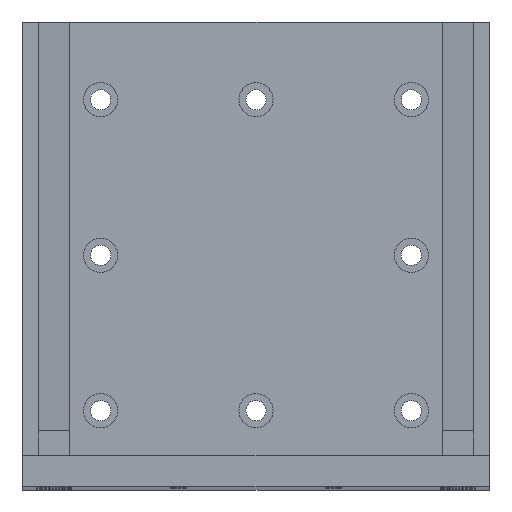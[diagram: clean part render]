
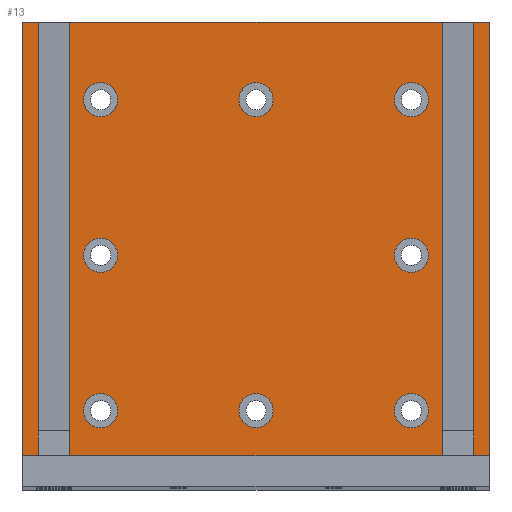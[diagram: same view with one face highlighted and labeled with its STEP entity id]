
A CAD part, top view. The second image highlights one B-rep face of the part: STEP entity #13.
In plain terms, the highlighted planar face has unit normal (0, 0, 1).
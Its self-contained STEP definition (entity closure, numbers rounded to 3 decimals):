
#11 = VERTEX_POINT ( 'NONE', #89 ) ;
#13 = ADVANCED_FACE ( 'NONE', ( #3093, #1830, #276, #179, #2582, #2991, #231, #2625, #3475 ), #2829, .F. ) ;
#89 = CARTESIAN_POINT ( 'NONE',  ( -75., -75.25, 10. ) ) ;
#120 = CARTESIAN_POINT ( 'NONE',  ( 5.5, 50.25, 10. ) ) ;
#124 = EDGE_CURVE ( 'NONE', #11, #1620, #3383, .T. ) ;
#148 = DIRECTION ( 'NONE',  ( 0., 0., 1. ) ) ;
#149 = EDGE_CURVE ( 'NONE', #2260, #2260, #2208, .T. ) ;
#155 = DIRECTION ( 'NONE',  ( 1., 0., 0. ) ) ;
#157 = CARTESIAN_POINT ( 'NONE',  ( 50., -49.75, 10. ) ) ;
#159 = CIRCLE ( 'NONE', #3938, 5.5 ) ;
#179 = FACE_BOUND ( 'NONE', #2463, .T. ) ;
#191 = ORIENTED_EDGE ( 'NONE', *, *, #2084, .F. ) ;
#231 = FACE_BOUND ( 'NONE', #754, .T. ) ;
#276 = FACE_BOUND ( 'NONE', #1924, .T. ) ;
#295 = VECTOR ( 'NONE', #1230, 1000. ) ;
#398 = CARTESIAN_POINT ( 'NONE',  ( 55.5, -49.75, 10. ) ) ;
#436 = CIRCLE ( 'NONE', #2646, 5.5 ) ;
#448 = DIRECTION ( 'NONE',  ( 1., 0., 0. ) ) ;
#511 = EDGE_LOOP ( 'NONE', ( #3136 ) ) ;
#522 = ORIENTED_EDGE ( 'NONE', *, *, #124, .T. ) ;
#536 = CARTESIAN_POINT ( 'NONE',  ( 75., -75.25, 10. ) ) ;
#574 = ORIENTED_EDGE ( 'NONE', *, *, #3185, .T. ) ;
#576 = DIRECTION ( 'NONE',  ( 1., 0., 0. ) ) ;
#617 = CARTESIAN_POINT ( 'NONE',  ( 50., 50.25, 10. ) ) ;
#635 = EDGE_CURVE ( 'NONE', #2950, #2950, #3952, .T. ) ;
#654 = VECTOR ( 'NONE', #1483, 1000. ) ;
#747 = DIRECTION ( 'NONE',  ( 1., 0., 0. ) ) ;
#754 = EDGE_LOOP ( 'NONE', ( #3772 ) ) ;
#793 = CARTESIAN_POINT ( 'NONE',  ( 0., 50.25, 10. ) ) ;
#831 = AXIS2_PLACEMENT_3D ( 'NONE', #2414, #3305, #576 ) ;
#864 = DIRECTION ( 'NONE',  ( 0., 0., 1. ) ) ;
#868 = CARTESIAN_POINT ( 'NONE',  ( -75., -75.25, 10. ) ) ;
#913 = CIRCLE ( 'NONE', #3582, 5.5 ) ;
#931 = ORIENTED_EDGE ( 'NONE', *, *, #1520, .F. ) ;
#946 = AXIS2_PLACEMENT_3D ( 'NONE', #1826, #2461, #1543 ) ;
#956 = DIRECTION ( 'NONE',  ( 1., 0., 0. ) ) ;
#1094 = CARTESIAN_POINT ( 'NONE',  ( 0., 0., 10. ) ) ;
#1099 = CARTESIAN_POINT ( 'NONE',  ( -44.5, 0.25, 10. ) ) ;
#1103 = DIRECTION ( 'NONE',  ( 0., 0., -1. ) ) ;
#1127 = DIRECTION ( 'NONE',  ( 0., 0., 1. ) ) ;
#1134 = DIRECTION ( 'NONE',  ( 1., 0., 0. ) ) ;
#1230 = DIRECTION ( 'NONE',  ( -1., 0., 0. ) ) ;
#1311 = CARTESIAN_POINT ( 'NONE',  ( 75., 75.25, 10. ) ) ;
#1337 = EDGE_CURVE ( 'NONE', #2500, #11, #1898, .T. ) ;
#1483 = DIRECTION ( 'NONE',  ( 0., -1., 0. ) ) ;
#1520 = EDGE_CURVE ( 'NONE', #2947, #2947, #2835, .T. ) ;
#1543 = DIRECTION ( 'NONE',  ( 1., 0., 0. ) ) ;
#1556 = VERTEX_POINT ( 'NONE', #2905 ) ;
#1620 = VERTEX_POINT ( 'NONE', #536 ) ;
#1657 = ORIENTED_EDGE ( 'NONE', *, *, #149, .F. ) ;
#1679 = CARTESIAN_POINT ( 'NONE',  ( -44.5, 50.25, 10. ) ) ;
#1682 = CARTESIAN_POINT ( 'NONE',  ( 50., 0.25, 10. ) ) ;
#1691 = VECTOR ( 'NONE', #2027, 1000. ) ;
#1730 = DIRECTION ( 'NONE',  ( -1., 0., 0. ) ) ;
#1736 = EDGE_LOOP ( 'NONE', ( #191 ) ) ;
#1826 = CARTESIAN_POINT ( 'NONE',  ( -50., -49.75, 10. ) ) ;
#1830 = FACE_BOUND ( 'NONE', #511, .T. ) ;
#1885 = EDGE_CURVE ( 'NONE', #2815, #2815, #2699, .T. ) ;
#1898 = LINE ( 'NONE', #868, #654 ) ;
#1905 = EDGE_LOOP ( 'NONE', ( #1951 ) ) ;
#1920 = EDGE_CURVE ( 'NONE', #3277, #3277, #159, .T. ) ;
#1924 = EDGE_LOOP ( 'NONE', ( #1657 ) ) ;
#1934 = ORIENTED_EDGE ( 'NONE', *, *, #3083, .T. ) ;
#1951 = ORIENTED_EDGE ( 'NONE', *, *, #3915, .F. ) ;
#1952 = AXIS2_PLACEMENT_3D ( 'NONE', #1094, #1103, #1730 ) ;
#2027 = DIRECTION ( 'NONE',  ( 1., 0., 0. ) ) ;
#2076 = VECTOR ( 'NONE', #2517, 1000. ) ;
#2078 = ORIENTED_EDGE ( 'NONE', *, *, #1337, .T. ) ;
#2084 = EDGE_CURVE ( 'NONE', #3335, #3335, #913, .T. ) ;
#2208 = CIRCLE ( 'NONE', #2814, 5.5 ) ;
#2217 = EDGE_CURVE ( 'NONE', #1556, #1556, #2479, .T. ) ;
#2260 = VERTEX_POINT ( 'NONE', #398 ) ;
#2414 = CARTESIAN_POINT ( 'NONE',  ( -50., 0.25, 10. ) ) ;
#2426 = CARTESIAN_POINT ( 'NONE',  ( -75., 75.25, 10. ) ) ;
#2461 = DIRECTION ( 'NONE',  ( 0., 0., 1. ) ) ;
#2463 = EDGE_LOOP ( 'NONE', ( #2693 ) ) ;
#2479 = CIRCLE ( 'NONE', #946, 5.5 ) ;
#2500 = VERTEX_POINT ( 'NONE', #3794 ) ;
#2517 = DIRECTION ( 'NONE',  ( 0., 1., 0. ) ) ;
#2582 = FACE_BOUND ( 'NONE', #3097, .T. ) ;
#2625 = FACE_BOUND ( 'NONE', #3681, .T. ) ;
#2628 = DIRECTION ( 'NONE',  ( 0., 0., 1. ) ) ;
#2646 = AXIS2_PLACEMENT_3D ( 'NONE', #617, #3381, #956 ) ;
#2693 = ORIENTED_EDGE ( 'NONE', *, *, #2217, .F. ) ;
#2699 = CIRCLE ( 'NONE', #3496, 5.5 ) ;
#2814 = AXIS2_PLACEMENT_3D ( 'NONE', #157, #148, #747 ) ;
#2815 = VERTEX_POINT ( 'NONE', #2859 ) ;
#2829 = PLANE ( 'NONE',  #1952 ) ;
#2835 = CIRCLE ( 'NONE', #831, 5.5 ) ;
#2859 = CARTESIAN_POINT ( 'NONE',  ( 55.5, 0.25, 10. ) ) ;
#2905 = CARTESIAN_POINT ( 'NONE',  ( -44.5, -49.75, 10. ) ) ;
#2925 = CARTESIAN_POINT ( 'NONE',  ( 55.5, 50.25, 10. ) ) ;
#2947 = VERTEX_POINT ( 'NONE', #1099 ) ;
#2950 = VERTEX_POINT ( 'NONE', #3108 ) ;
#2991 = FACE_BOUND ( 'NONE', #1736, .T. ) ;
#3079 = EDGE_LOOP ( 'NONE', ( #574, #1934, #2078, #522 ) ) ;
#3083 = EDGE_CURVE ( 'NONE', #3323, #2500, #3148, .T. ) ;
#3093 = FACE_BOUND ( 'NONE', #1905, .T. ) ;
#3094 = VERTEX_POINT ( 'NONE', #2925 ) ;
#3097 = EDGE_LOOP ( 'NONE', ( #931 ) ) ;
#3108 = CARTESIAN_POINT ( 'NONE',  ( 5.5, -49.75, 10. ) ) ;
#3136 = ORIENTED_EDGE ( 'NONE', *, *, #1885, .F. ) ;
#3148 = LINE ( 'NONE', #2426, #295 ) ;
#3185 = EDGE_CURVE ( 'NONE', #1620, #3323, #3779, .T. ) ;
#3277 = VERTEX_POINT ( 'NONE', #120 ) ;
#3305 = DIRECTION ( 'NONE',  ( 0., 0., 1. ) ) ;
#3323 = VERTEX_POINT ( 'NONE', #1311 ) ;
#3335 = VERTEX_POINT ( 'NONE', #1679 ) ;
#3369 = CARTESIAN_POINT ( 'NONE',  ( 75., -75.25, 10. ) ) ;
#3381 = DIRECTION ( 'NONE',  ( 0., 0., 1. ) ) ;
#3383 = LINE ( 'NONE', #3514, #1691 ) ;
#3475 = FACE_OUTER_BOUND ( 'NONE', #3079, .T. ) ;
#3496 = AXIS2_PLACEMENT_3D ( 'NONE', #1682, #2628, #448 ) ;
#3501 = ORIENTED_EDGE ( 'NONE', *, *, #635, .F. ) ;
#3514 = CARTESIAN_POINT ( 'NONE',  ( -75., -75.25, 10. ) ) ;
#3576 = AXIS2_PLACEMENT_3D ( 'NONE', #3792, #1127, #3844 ) ;
#3582 = AXIS2_PLACEMENT_3D ( 'NONE', #3853, #864, #1134 ) ;
#3681 = EDGE_LOOP ( 'NONE', ( #3501 ) ) ;
#3772 = ORIENTED_EDGE ( 'NONE', *, *, #1920, .F. ) ;
#3779 = LINE ( 'NONE', #3369, #2076 ) ;
#3792 = CARTESIAN_POINT ( 'NONE',  ( 0., -49.75, 10. ) ) ;
#3794 = CARTESIAN_POINT ( 'NONE',  ( -75., 75.25, 10. ) ) ;
#3798 = DIRECTION ( 'NONE',  ( 0., 0., 1. ) ) ;
#3844 = DIRECTION ( 'NONE',  ( 1., 0., 0. ) ) ;
#3853 = CARTESIAN_POINT ( 'NONE',  ( -50., 50.25, 10. ) ) ;
#3915 = EDGE_CURVE ( 'NONE', #3094, #3094, #436, .T. ) ;
#3938 = AXIS2_PLACEMENT_3D ( 'NONE', #793, #3798, #155 ) ;
#3952 = CIRCLE ( 'NONE', #3576, 5.5 ) ;
